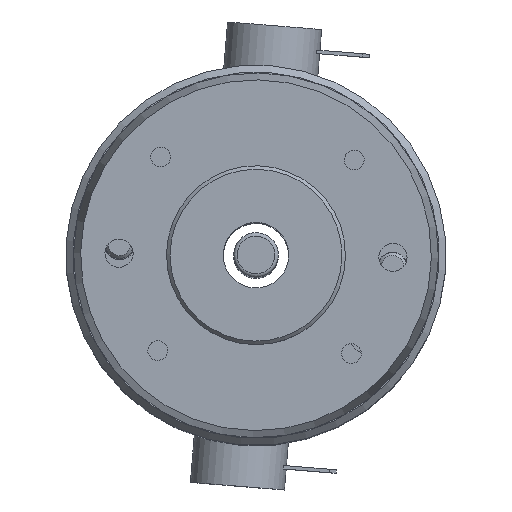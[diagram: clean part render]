
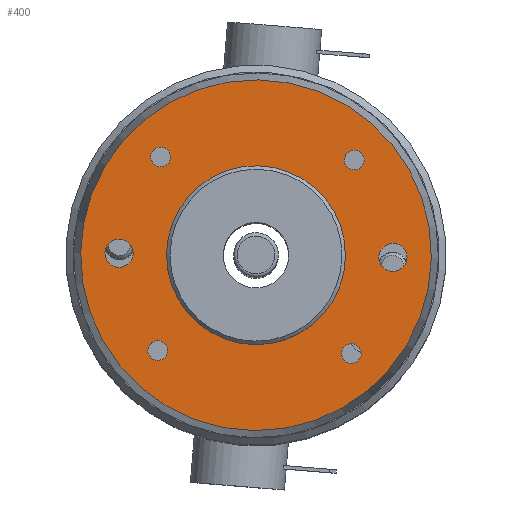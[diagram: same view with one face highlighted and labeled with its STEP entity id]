
A CAD part, top view. The second image highlights one B-rep face of the part: STEP entity #400.
In plain terms, the highlighted planar face has unit normal (0, 0, 1).
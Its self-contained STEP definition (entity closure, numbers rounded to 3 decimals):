
#123=CARTESIAN_POINT('',(-13.75,15.15,5.0));
#124=VERTEX_POINT('',#123);
#125=CARTESIAN_POINT('',(-13.75,13.75,5.0));
#126=DIRECTION('',(0.0,0.0,-1.0));
#127=DIRECTION('',(0.0,1.0,0.0));
#128=AXIS2_PLACEMENT_3D('',#125,#126,#127);
#129=CIRCLE('',#128,1.4);
#130=EDGE_CURVE('',#124,#124,#129,.T.);
#151=CARTESIAN_POINT('',(-15.15,-13.75,5.0));
#152=VERTEX_POINT('',#151);
#153=CARTESIAN_POINT('',(-13.75,-13.75,5.0));
#154=DIRECTION('',(0.0,0.0,-1.0));
#155=DIRECTION('',(-1.0,0.0,0.0));
#156=AXIS2_PLACEMENT_3D('',#153,#154,#155);
#157=CIRCLE('',#156,1.4);
#158=EDGE_CURVE('',#152,#152,#157,.T.);
#179=CARTESIAN_POINT('',(13.75,-15.15,5.0));
#180=VERTEX_POINT('',#179);
#181=CARTESIAN_POINT('',(13.75,-13.75,5.0));
#182=DIRECTION('',(0.0,0.0,-1.0));
#183=DIRECTION('',(0.0,-1.0,0.0));
#184=AXIS2_PLACEMENT_3D('',#181,#182,#183);
#185=CIRCLE('',#184,1.4);
#186=EDGE_CURVE('',#180,#180,#185,.T.);
#207=CARTESIAN_POINT('',(15.15,13.75,5.0));
#208=VERTEX_POINT('',#207);
#209=CARTESIAN_POINT('',(13.75,13.75,5.0));
#210=DIRECTION('',(0.0,0.0,-1.0));
#211=DIRECTION('',(1.0,0.0,0.0));
#212=AXIS2_PLACEMENT_3D('',#209,#210,#211);
#213=CIRCLE('',#212,1.4);
#214=EDGE_CURVE('',#208,#208,#213,.T.);
#235=CARTESIAN_POINT('',(21.445,0.,5.0));
#236=VERTEX_POINT('',#235);
#237=CARTESIAN_POINT('',(19.445,0.0,5.0));
#238=DIRECTION('',(0.0,0.0,-1.0));
#239=DIRECTION('',(-1.0,0.0,0.0));
#240=AXIS2_PLACEMENT_3D('',#237,#238,#239);
#241=CIRCLE('',#240,2.0);
#242=EDGE_CURVE('',#236,#236,#241,.T.);
#263=CARTESIAN_POINT('',(-17.445,0.,5.0));
#264=VERTEX_POINT('',#263);
#265=CARTESIAN_POINT('',(-19.445,0.0,5.0));
#266=DIRECTION('',(0.0,0.0,-1.0));
#267=DIRECTION('',(-1.0,0.0,0.0));
#268=AXIS2_PLACEMENT_3D('',#265,#266,#267);
#269=CIRCLE('',#268,2.0);
#270=EDGE_CURVE('',#264,#264,#269,.T.);
#336=CARTESIAN_POINT('',(12.7,0.,5.0));
#337=VERTEX_POINT('',#336);
#338=CARTESIAN_POINT('',(0.0,0.0,5.0));
#339=DIRECTION('',(0.0,0.0,-1.0));
#340=DIRECTION('',(-1.0,0.0,0.0));
#341=AXIS2_PLACEMENT_3D('',#338,#339,#340);
#342=CIRCLE('',#341,12.7);
#343=EDGE_CURVE('',#337,#337,#342,.T.);
#363=CARTESIAN_POINT('',(0.0,0.0,5.0));
#364=DIRECTION('',(0.0,0.0,-1.0));
#365=DIRECTION('',(-1.0,0.0,0.0));
#366=AXIS2_PLACEMENT_3D('',#363,#364,#365);
#367=PLANE('',#366);
#368=CARTESIAN_POINT('',(-24.9,0.0,5.0));
#369=VERTEX_POINT('',#368);
#370=CARTESIAN_POINT('',(0.0,0.0,5.0));
#371=DIRECTION('',(0.0,0.0,-1.0));
#372=DIRECTION('',(-1.0,0.0,0.0));
#373=AXIS2_PLACEMENT_3D('',#370,#371,#372);
#374=CIRCLE('',#373,24.9);
#375=EDGE_CURVE('',#369,#369,#374,.T.);
#376=ORIENTED_EDGE('',*,*,#375,.F.);
#377=EDGE_LOOP('',(#376));
#378=FACE_OUTER_BOUND('',#377,.T.);
#379=ORIENTED_EDGE('',*,*,#130,.T.);
#380=EDGE_LOOP('',(#379));
#381=FACE_BOUND('',#380,.T.);
#382=ORIENTED_EDGE('',*,*,#158,.T.);
#383=EDGE_LOOP('',(#382));
#384=FACE_BOUND('',#383,.T.);
#385=ORIENTED_EDGE('',*,*,#186,.T.);
#386=EDGE_LOOP('',(#385));
#387=FACE_BOUND('',#386,.T.);
#388=ORIENTED_EDGE('',*,*,#214,.T.);
#389=EDGE_LOOP('',(#388));
#390=FACE_BOUND('',#389,.T.);
#391=ORIENTED_EDGE('',*,*,#242,.T.);
#392=EDGE_LOOP('',(#391));
#393=FACE_BOUND('',#392,.T.);
#394=ORIENTED_EDGE('',*,*,#270,.T.);
#395=EDGE_LOOP('',(#394));
#396=FACE_BOUND('',#395,.T.);
#397=ORIENTED_EDGE('',*,*,#343,.T.);
#398=EDGE_LOOP('',(#397));
#399=FACE_BOUND('',#398,.T.);
#400=ADVANCED_FACE('',(#378,#381,#384,#387,#390,#393,#396,#399),#367,.F.);
